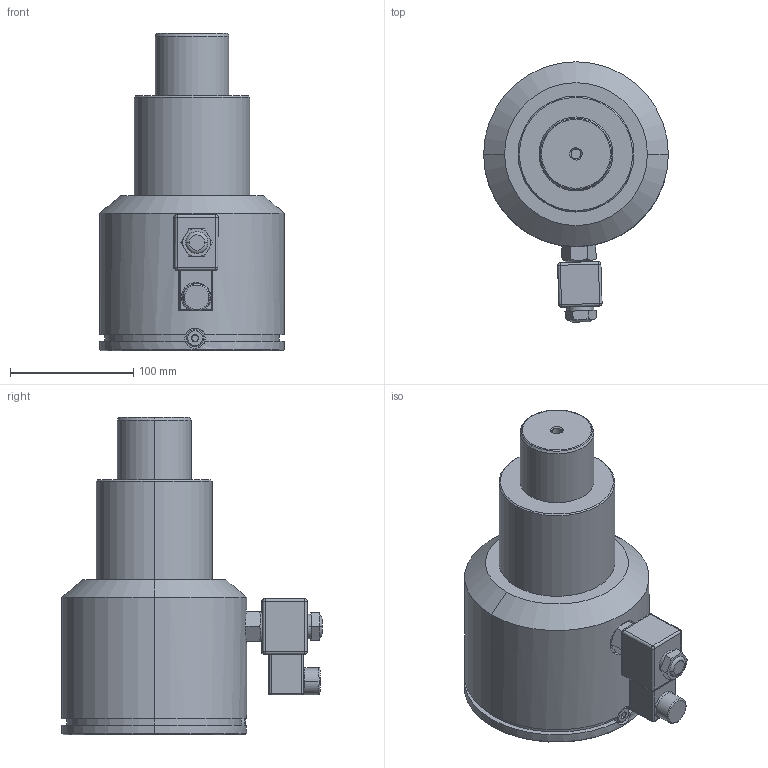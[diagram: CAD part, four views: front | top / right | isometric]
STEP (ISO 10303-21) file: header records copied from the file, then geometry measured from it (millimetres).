
FILE_DESCRIPTION(('CATIA V5 STEP Exchange'),'2;1');
FILE_NAME('W:\CATALOGO GENERAL 2015\CATIA\CILINDRO PARADA MONOCUERPO\TPMCM4500x50.stp','2023-09-26T04:51:15+00:00',('none'),('none'),'CATIA Version 5 Release 17 (IN-10)','CATIA V5 STEP AP203','none');
FILE_SCHEMA(('CONFIG_CONTROL_DESIGN'));
Length unit declared in the file: millimetre
Products named in the file (1): Stop-cylinder monolitic
Assembly tree (5 placements, depth 2):
  Stop-cylinder monolitic
    #56
    #1744
    #1896
    #2210
    #5752
Bounding box: 150 x 211.32 x 258 mm (x, y, z)
Volume: 2947005.7 mm3; surface area: 171063.7 mm2
Topology: 9 solids, 9 shells, 274 faces, 608 edges, 339 vertices
Faces by surface type: cone 74, cylinder 68, plane 67, torus 33, revolution 18, sphere 12, bspline 2
Entity records: 7489 total; most frequent: CARTESIAN_POINT 1984, ORIENTED_EDGE 1156, DIRECTION 915, EDGE_CURVE 578, AXIS2_PLACEMENT_3D 472, VERTEX_POINT 339, EDGE_LOOP 291, ADVANCED_FACE 274
